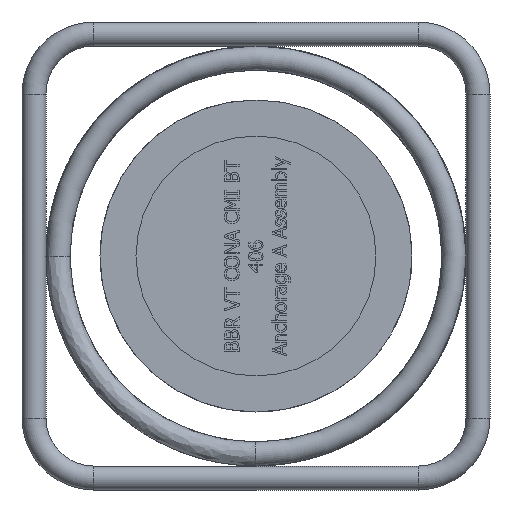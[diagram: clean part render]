
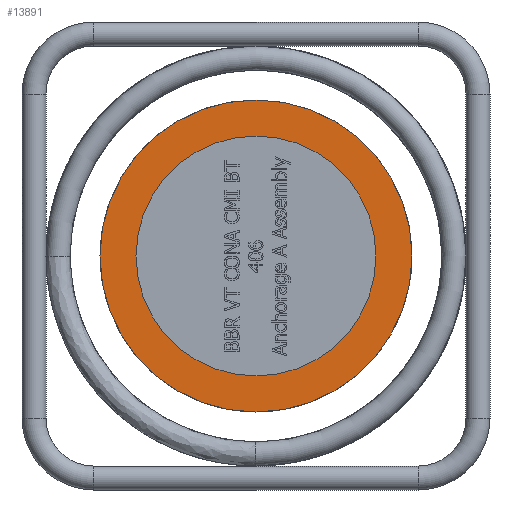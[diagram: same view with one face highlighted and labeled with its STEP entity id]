
A CAD part, left-side view. The second image highlights one B-rep face of the part: STEP entity #13891.
In plain terms, the highlighted planar face has unit normal (-1, 0, 0).
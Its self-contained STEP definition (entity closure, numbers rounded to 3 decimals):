
#85=FACE_BOUND('',#4975,.T.);
#1352=PLANE('',#14448);
#4187=FACE_OUTER_BOUND('',#4974,.T.);
#4974=EDGE_LOOP('',(#11897));
#4975=EDGE_LOOP('',(#11898));
#5166=CIRCLE('',#14449,65.);
#5167=CIRCLE('',#14450,50.);
#6442=VERTEX_POINT('',#25982);
#6443=VERTEX_POINT('',#25984);
#8287=EDGE_CURVE('',#6442,#6442,#5166,.T.);
#8288=EDGE_CURVE('',#6443,#6443,#5167,.T.);
#11897=ORIENTED_EDGE('',*,*,#8287,.T.);
#11898=ORIENTED_EDGE('',*,*,#8288,.F.);
#13891=ADVANCED_FACE('',(#4187,#85),#1352,.T.);
#14448=AXIS2_PLACEMENT_3D('',#25981,#16562,#16563);
#14449=AXIS2_PLACEMENT_3D('',#25983,#16564,#16565);
#14450=AXIS2_PLACEMENT_3D('',#25985,#16566,#16567);
#16562=DIRECTION('center_axis',(-1.,0.,0.));
#16563=DIRECTION('ref_axis',(0.,-1.,0.));
#16564=DIRECTION('center_axis',(-1.,0.,0.));
#16565=DIRECTION('ref_axis',(0.,0.,
-1.));
#16566=DIRECTION('center_axis',(-1.,0.,0.));
#16567=DIRECTION('ref_axis',(0.,0.,
-1.));
#25981=CARTESIAN_POINT('Origin',(-112.151,0.,
-50.5));
#25982=CARTESIAN_POINT('',(-112.151,0.,65.));
#25983=CARTESIAN_POINT('Origin',(-112.151,0.,
0.));
#25984=CARTESIAN_POINT('',(-112.151,0.,50.));
#25985=CARTESIAN_POINT('Origin',(-112.151,0.,
0.));
